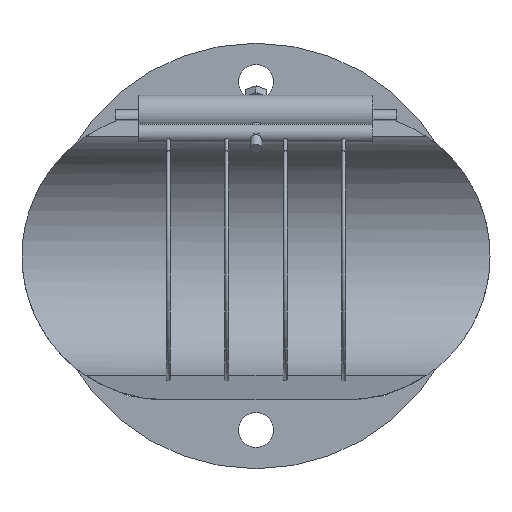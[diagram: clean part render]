
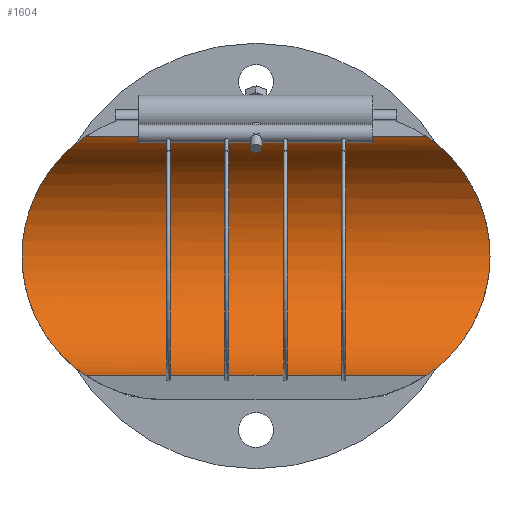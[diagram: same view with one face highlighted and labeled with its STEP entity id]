
A CAD part, front view. The second image highlights one B-rep face of the part: STEP entity #1604.
In plain terms, the highlighted cylindrical face has radius 62.5 mm (diameter 125 mm), a partial arc.
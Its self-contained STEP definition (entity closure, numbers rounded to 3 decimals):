
#151=FACE_OUTER_BOUND('',#245,.T.);
#245=EDGE_LOOP('',(#1347,#1348,#1349,#1350,#1351,#1352,#1353,#1354,#1355,
#1356));
#332=B_SPLINE_CURVE_WITH_KNOTS('',3,(#3339,#3340,#3341,#3342,#3343,#3344,
#3345,#3346,#3347,#3348,#3349,#3350,#3351,#3352,#3353,#3354,#3355,#3356),
 .UNSPECIFIED.,.F.,.F.,(4,2,2,2,2,2,2,2,4),(21.566,21.761,
23.068,24.375,25.681,26.931,28.182,
29.432,30.682),.UNSPECIFIED.);
#333=B_SPLINE_CURVE_WITH_KNOTS('',3,(#3357,#3358,#3359,#3360,#3361,#3362,
#3363,#3364,#3365,#3366,#3367,#3368,#3369,#3370,#3371,#3372,#3373,#3374),
 .UNSPECIFIED.,.F.,.F.,(4,2,2,2,2,2,2,2,4),(30.682,31.932,
33.183,34.433,35.683,36.99,38.296,
39.603,39.799),.UNSPECIFIED.);
#338=B_SPLINE_CURVE_WITH_KNOTS('',3,(#3486,#3487,#3488,#3489,#3490,#3491,
#3492,#3493,#3494,#3495,#3496,#3497,#3498,#3499,#3500,#3501,#3502,#3503),
 .UNSPECIFIED.,.F.,.F.,(4,2,2,2,2,2,2,2,4),(1.111,1.307,
2.613,3.92,5.226,6.477,7.727,
8.977,10.227),.UNSPECIFIED.);
#339=B_SPLINE_CURVE_WITH_KNOTS('',3,(#3505,#3506,#3507,#3508,#3509,#3510,
#3511,#3512,#3513,#3514,#3515,#3516,#3517,#3518,#3519,#3520,#3521,#3522),
 .UNSPECIFIED.,.F.,.F.,(4,2,2,2,2,2,2,2,4),(10.227,11.478,
12.728,13.978,15.228,16.535,17.842,
19.148,19.344),.UNSPECIFIED.);
#469=LINE('',#2636,#542);
#470=LINE('',#2639,#543);
#471=LINE('',#2642,#544);
#472=LINE('',#2644,#545);
#473=LINE('',#2645,#546);
#517=LINE('',#3564,#590);
#542=VECTOR('',#1901,10.);
#543=VECTOR('',#1904,10.);
#544=VECTOR('',#1907,10.);
#545=VECTOR('',#1910,10.);
#546=VECTOR('',#1911,10.);
#590=VECTOR('',#2163,10.);
#631=VERTEX_POINT('',#2624);
#633=VERTEX_POINT('',#2629);
#635=VERTEX_POINT('',#2633);
#636=VERTEX_POINT('',#2635);
#637=VERTEX_POINT('',#2638);
#638=VERTEX_POINT('',#2641);
#714=VERTEX_POINT('',#3336);
#715=VERTEX_POINT('',#3338);
#720=VERTEX_POINT('',#3485);
#721=VERTEX_POINT('',#3504);
#809=EDGE_CURVE('',#636,#635,#469,.T.);
#811=EDGE_CURVE('',#637,#636,#470,.T.);
#813=EDGE_CURVE('',#638,#637,#471,.T.);
#815=EDGE_CURVE('',#631,#638,#472,.T.);
#816=EDGE_CURVE('',#633,#631,#473,.T.);
#940=EDGE_CURVE('',#714,#715,#332,.T.);
#941=EDGE_CURVE('',#715,#635,#333,.T.);
#946=EDGE_CURVE('',#633,#720,#338,.T.);
#947=EDGE_CURVE('',#720,#721,#339,.T.);
#951=EDGE_CURVE('',#714,#721,#517,.T.);
#1347=ORIENTED_EDGE('',*,*,#946,.F.);
#1348=ORIENTED_EDGE('',*,*,#816,.T.);
#1349=ORIENTED_EDGE('',*,*,#815,.T.);
#1350=ORIENTED_EDGE('',*,*,#813,.T.);
#1351=ORIENTED_EDGE('',*,*,#811,.T.);
#1352=ORIENTED_EDGE('',*,*,#809,.T.);
#1353=ORIENTED_EDGE('',*,*,#941,.F.);
#1354=ORIENTED_EDGE('',*,*,#940,.F.);
#1355=ORIENTED_EDGE('',*,*,#951,.T.);
#1356=ORIENTED_EDGE('',*,*,#947,.F.);
#1533=CYLINDRICAL_SURFACE('',#1776,62.5);
#1604=ADVANCED_FACE('',(#151),#1533,.F.);
#1776=AXIS2_PLACEMENT_3D('',#3563,#2161,#2162);
#1901=DIRECTION('',(1.,0.,0.));
#1904=DIRECTION('',(1.,0.,0.));
#1907=DIRECTION('',(1.,0.,0.));
#1910=DIRECTION('',(1.,0.,0.));
#1911=DIRECTION('',(1.,0.,0.));
#2161=DIRECTION('center_axis',(1.,0.,0.));
#2162=DIRECTION('ref_axis',(0.,1.,0.));
#2163=DIRECTION('',(-1.,0.,0.));
#2624=CARTESIAN_POINT('',(-45.375,10.853,-61.55));
#2629=CARTESIAN_POINT('',(-88.359,10.853,-61.55));
#2633=CARTESIAN_POINT('',(88.359,10.853,-61.55));
#2635=CARTESIAN_POINT('',(45.375,10.853,-61.55));
#2636=CARTESIAN_POINT('',(0.,10.853,-61.55));
#2638=CARTESIAN_POINT('',(15.125,10.853,-61.55));
#2639=CARTESIAN_POINT('',(0.,10.853,-61.55));
#2641=CARTESIAN_POINT('',(-15.125,10.853,-61.55));
#2642=CARTESIAN_POINT('',(0.,10.853,-61.55));
#2644=CARTESIAN_POINT('',(0.,10.853,-61.55));
#2645=CARTESIAN_POINT('',(0.,10.853,-61.55));
#3336=CARTESIAN_POINT('',(88.359,10.853,61.55));
#3338=CARTESIAN_POINT('',(121.,62.5,0.));
#3339=CARTESIAN_POINT('Ctrl Pts',(88.359,10.853,61.55));
#3340=CARTESIAN_POINT('Ctrl Pts',(88.521,11.473,61.441));
#3341=CARTESIAN_POINT('Ctrl Pts',(88.694,12.091,61.323));
#3342=CARTESIAN_POINT('Ctrl Pts',(90.111,16.8,60.345));
#3343=CARTESIAN_POINT('Ctrl Pts',(91.837,20.743,59.098));
#3344=CARTESIAN_POINT('Ctrl Pts',(95.734,28.243,55.903));
#3345=CARTESIAN_POINT('Ctrl Pts',(97.904,31.802,53.952));
#3346=CARTESIAN_POINT('Ctrl Pts',(102.248,38.413,49.464));
#3347=CARTESIAN_POINT('Ctrl Pts',(104.423,41.465,46.924));
#3348=CARTESIAN_POINT('Ctrl Pts',(108.371,46.806,41.582));
#3349=CARTESIAN_POINT('Ctrl Pts',(110.303,49.314,38.605));
#3350=CARTESIAN_POINT('Ctrl Pts',(113.856,53.823,32.02));
#3351=CARTESIAN_POINT('Ctrl Pts',(115.477,55.824,28.413));
#3352=CARTESIAN_POINT('Ctrl Pts',(118.159,59.099,20.758));
#3353=CARTESIAN_POINT('Ctrl Pts',(119.222,60.376,16.702));
#3354=CARTESIAN_POINT('Ctrl Pts',(120.643,62.077,8.407));
#3355=CARTESIAN_POINT('Ctrl Pts',(121.,62.5,4.168));
#3356=CARTESIAN_POINT('Ctrl Pts',(121.,62.5,0.));
#3357=CARTESIAN_POINT('Ctrl Pts',(121.,62.5,0.));
#3358=CARTESIAN_POINT('Ctrl Pts',(121.,62.5,-4.168));
#3359=CARTESIAN_POINT('Ctrl Pts',(120.643,62.077,-8.407));
#3360=CARTESIAN_POINT('Ctrl Pts',(119.222,60.376,-16.702));
#3361=CARTESIAN_POINT('Ctrl Pts',(118.159,59.099,-20.758));
#3362=CARTESIAN_POINT('Ctrl Pts',(115.477,55.824,-28.413));
#3363=CARTESIAN_POINT('Ctrl Pts',(113.856,53.823,-32.02));
#3364=CARTESIAN_POINT('Ctrl Pts',(110.303,49.314,-38.605));
#3365=CARTESIAN_POINT('Ctrl Pts',(108.371,46.806,-41.582));
#3366=CARTESIAN_POINT('Ctrl Pts',(104.423,41.465,-46.924));
#3367=CARTESIAN_POINT('Ctrl Pts',(102.248,38.413,-49.464));
#3368=CARTESIAN_POINT('Ctrl Pts',(97.904,31.802,-53.952));
#3369=CARTESIAN_POINT('Ctrl Pts',(95.734,28.243,-55.903));
#3370=CARTESIAN_POINT('Ctrl Pts',(91.837,20.743,-59.098));
#3371=CARTESIAN_POINT('Ctrl Pts',(90.111,16.8,-60.345));
#3372=CARTESIAN_POINT('Ctrl Pts',(88.694,12.091,-61.323));
#3373=CARTESIAN_POINT('Ctrl Pts',(88.521,11.473,-61.441));
#3374=CARTESIAN_POINT('Ctrl Pts',(88.359,10.853,-61.55));
#3485=CARTESIAN_POINT('',(-121.,62.5,0.));
#3486=CARTESIAN_POINT('Ctrl Pts',(-88.359,10.853,-61.55));
#3487=CARTESIAN_POINT('Ctrl Pts',(-88.521,11.473,-61.441));
#3488=CARTESIAN_POINT('Ctrl Pts',(-88.694,12.091,-61.323));
#3489=CARTESIAN_POINT('Ctrl Pts',(-90.111,16.8,-60.345));
#3490=CARTESIAN_POINT('Ctrl Pts',(-91.837,20.743,-59.098));
#3491=CARTESIAN_POINT('Ctrl Pts',(-95.734,28.243,-55.903));
#3492=CARTESIAN_POINT('Ctrl Pts',(-97.904,31.802,-53.952));
#3493=CARTESIAN_POINT('Ctrl Pts',(-102.248,38.413,-49.464));
#3494=CARTESIAN_POINT('Ctrl Pts',(-104.423,41.465,-46.924));
#3495=CARTESIAN_POINT('Ctrl Pts',(-108.371,46.806,-41.582));
#3496=CARTESIAN_POINT('Ctrl Pts',(-110.303,49.314,-38.605));
#3497=CARTESIAN_POINT('Ctrl Pts',(-113.856,53.823,-32.02));
#3498=CARTESIAN_POINT('Ctrl Pts',(-115.477,55.824,-28.413));
#3499=CARTESIAN_POINT('Ctrl Pts',(-118.159,59.099,-20.758));
#3500=CARTESIAN_POINT('Ctrl Pts',(-119.222,60.376,-16.702));
#3501=CARTESIAN_POINT('Ctrl Pts',(-120.643,62.077,-8.407));
#3502=CARTESIAN_POINT('Ctrl Pts',(-121.,62.5,-4.168));
#3503=CARTESIAN_POINT('Ctrl Pts',(-121.,62.5,0.));
#3504=CARTESIAN_POINT('',(-88.359,10.853,61.55));
#3505=CARTESIAN_POINT('Ctrl Pts',(-121.,62.5,0.));
#3506=CARTESIAN_POINT('Ctrl Pts',(-121.,62.5,4.168));
#3507=CARTESIAN_POINT('Ctrl Pts',(-120.643,62.077,8.407));
#3508=CARTESIAN_POINT('Ctrl Pts',(-119.222,60.376,16.702));
#3509=CARTESIAN_POINT('Ctrl Pts',(-118.159,59.099,20.758));
#3510=CARTESIAN_POINT('Ctrl Pts',(-115.477,55.824,28.413));
#3511=CARTESIAN_POINT('Ctrl Pts',(-113.856,53.823,32.02));
#3512=CARTESIAN_POINT('Ctrl Pts',(-110.303,49.314,38.605));
#3513=CARTESIAN_POINT('Ctrl Pts',(-108.371,46.806,41.582));
#3514=CARTESIAN_POINT('Ctrl Pts',(-104.423,41.465,46.924));
#3515=CARTESIAN_POINT('Ctrl Pts',(-102.248,38.413,49.464));
#3516=CARTESIAN_POINT('Ctrl Pts',(-97.904,31.802,53.952));
#3517=CARTESIAN_POINT('Ctrl Pts',(-95.734,28.243,55.903));
#3518=CARTESIAN_POINT('Ctrl Pts',(-91.837,20.743,59.098));
#3519=CARTESIAN_POINT('Ctrl Pts',(-90.111,16.8,60.345));
#3520=CARTESIAN_POINT('Ctrl Pts',(-88.694,12.091,61.323));
#3521=CARTESIAN_POINT('Ctrl Pts',(-88.521,11.473,61.441));
#3522=CARTESIAN_POINT('Ctrl Pts',(-88.359,10.853,61.55));
#3563=CARTESIAN_POINT('Origin',(0.,0.,0.));
#3564=CARTESIAN_POINT('',(0.,10.853,61.55));
